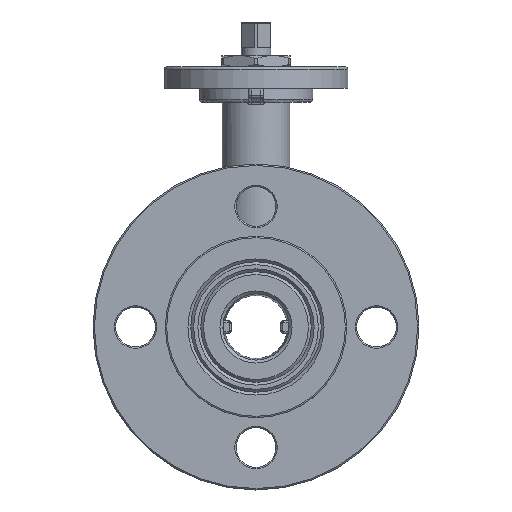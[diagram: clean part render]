
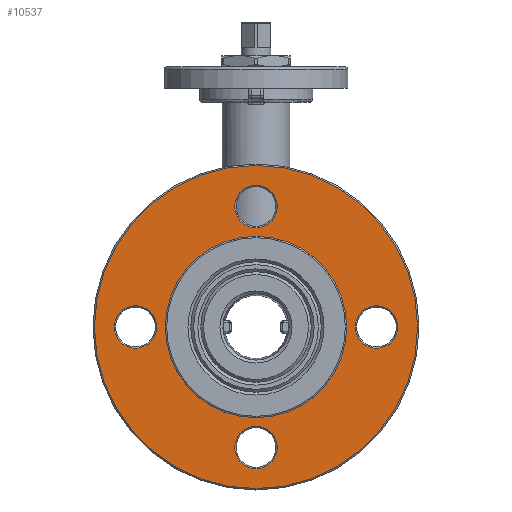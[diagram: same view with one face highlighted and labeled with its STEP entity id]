
A CAD part, left-side view. The second image highlights one B-rep face of the part: STEP entity #10537.
In plain terms, the highlighted planar face has unit normal (-1, 0, 0) as drawn and (0, 0, -1) by its records, which use the part's own axes.
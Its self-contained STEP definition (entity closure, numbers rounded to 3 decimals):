
#2091=FACE_BOUND('',#3655,.T.);
#2092=FACE_BOUND('',#3656,.T.);
#2093=FACE_BOUND('',#3657,.T.);
#2094=FACE_BOUND('',#3658,.T.);
#2095=FACE_BOUND('',#3659,.T.);
#2925=FACE_OUTER_BOUND('',#3654,.T.);
#3654=EDGE_LOOP('',(#8294));
#3655=EDGE_LOOP('',(#8295));
#3656=EDGE_LOOP('',(#8296));
#3657=EDGE_LOOP('',(#8297));
#3658=EDGE_LOOP('',(#8298));
#3659=EDGE_LOOP('',(#8299));
#4488=CIRCLE('',#11538,7.5);
#4489=CIRCLE('',#11540,57.);
#4490=CIRCLE('',#11541,7.5);
#4491=CIRCLE('',#11542,7.5);
#4492=CIRCLE('',#11543,7.5);
#4493=CIRCLE('',#11544,22.);
#5096=VERTEX_POINT('',#16897);
#5097=VERTEX_POINT('',#16900);
#5098=VERTEX_POINT('',#16902);
#5099=VERTEX_POINT('',#16904);
#5100=VERTEX_POINT('',#16906);
#5101=VERTEX_POINT('',#16908);
#6273=EDGE_CURVE('',#5096,#5096,#4488,.T.);
#6274=EDGE_CURVE('',#5097,#5097,#4489,.T.);
#6275=EDGE_CURVE('',#5098,#5098,#4490,.T.);
#6276=EDGE_CURVE('',#5099,#5099,#4491,.T.);
#6277=EDGE_CURVE('',#5100,#5100,#4492,.T.);
#6278=EDGE_CURVE('',#5101,#5101,#4493,.T.);
#8294=ORIENTED_EDGE('',*,*,#6274,.F.);
#8295=ORIENTED_EDGE('',*,*,#6275,.F.);
#8296=ORIENTED_EDGE('',*,*,#6276,.F.);
#8297=ORIENTED_EDGE('',*,*,#6277,.F.);
#8298=ORIENTED_EDGE('',*,*,#6278,.F.);
#8299=ORIENTED_EDGE('',*,*,#6273,.F.);
#10073=PLANE('',#11539);
#10537=ADVANCED_FACE('',(#2925,#2091,#2092,#2093,#2094,#2095),#10073,.T.);
#11538=AXIS2_PLACEMENT_3D('',#16898,#13522,#13523);
#11539=AXIS2_PLACEMENT_3D('',#16899,#13524,#13525);
#11540=AXIS2_PLACEMENT_3D('',#16901,#13526,#13527);
#11541=AXIS2_PLACEMENT_3D('',#16903,#13528,#13529);
#11542=AXIS2_PLACEMENT_3D('',#16905,#13530,#13531);
#11543=AXIS2_PLACEMENT_3D('',#16907,#13532,#13533);
#11544=AXIS2_PLACEMENT_3D('',#16909,#13534,#13535);
#13522=DIRECTION('center_axis',(0.,0.,-1.));
#13523=DIRECTION('ref_axis',(-1.,0.,0.));
#13524=DIRECTION('center_axis',(0.,0.,-1.));
#13525=DIRECTION('ref_axis',(-1.,0.,0.));
#13526=DIRECTION('center_axis',(0.,0.,1.));
#13527=DIRECTION('ref_axis',(-1.,0.,0.));
#13528=DIRECTION('center_axis',(0.,0.,-1.));
#13529=DIRECTION('ref_axis',(-1.,0.,0.));
#13530=DIRECTION('center_axis',(0.,0.,-1.));
#13531=DIRECTION('ref_axis',(-1.,0.,0.));
#13532=DIRECTION('center_axis',(0.,0.,-1.));
#13533=DIRECTION('ref_axis',(-1.,0.,0.));
#13534=DIRECTION('center_axis',(0.,0.,-1.));
#13535=DIRECTION('ref_axis',(-1.,0.,0.));
#16897=CARTESIAN_POINT('',(7.5,42.5,0.));
#16898=CARTESIAN_POINT('Origin',(0.,42.5,0.));
#16899=CARTESIAN_POINT('Origin',(0.,0.,0.));
#16900=CARTESIAN_POINT('',(57.,0.,0.));
#16901=CARTESIAN_POINT('Origin',(0.,0.,0.));
#16902=CARTESIAN_POINT('',(-35.,0.,0.));
#16903=CARTESIAN_POINT('Origin',(-42.5,0.,0.));
#16904=CARTESIAN_POINT('',(7.5,-42.5,0.));
#16905=CARTESIAN_POINT('Origin',(0.,-42.5,0.));
#16906=CARTESIAN_POINT('',(50.,0.,0.));
#16907=CARTESIAN_POINT('Origin',(42.5,0.,0.));
#16908=CARTESIAN_POINT('',(22.,0.,0.));
#16909=CARTESIAN_POINT('Origin',(0.,0.,0.));
